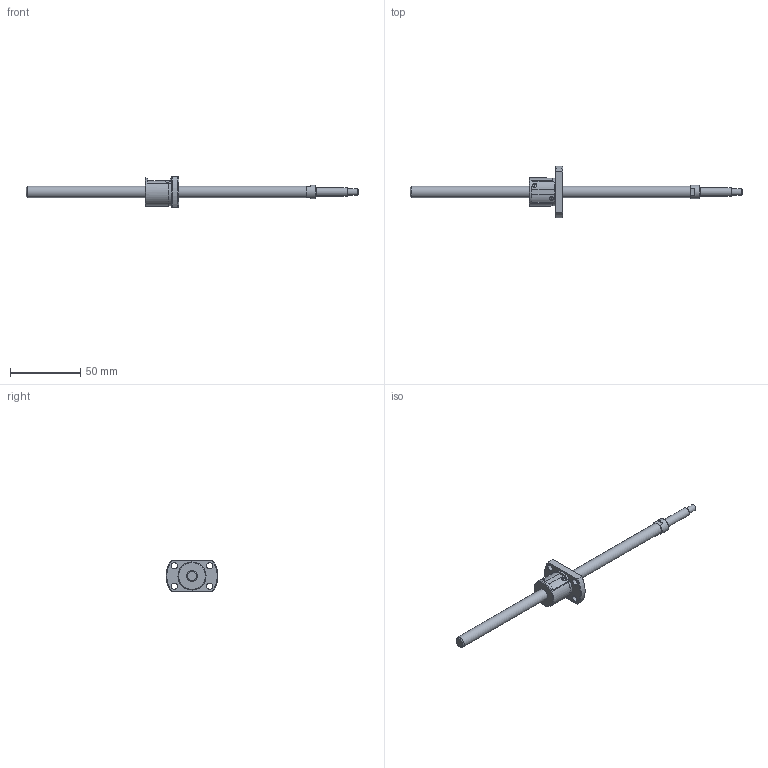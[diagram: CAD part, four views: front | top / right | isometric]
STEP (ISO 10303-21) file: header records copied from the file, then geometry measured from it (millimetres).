
FILE_DESCRIPTION(/* description */ ('STEP AP214'),/* implementation_level */ '2;1');
FILE_NAME(/* name */ 'SRT0802-196R237C7A0X(85Processing)',/* time_stamp */ '2026-08-04T19:57:06+02:00',/* author */ ('License CC BY-ND 4.0'),/* organization */ ('CADENAS'),/* preprocessor_version */ 'ST-DEVELOPER v20',/* originating_system */ 'PARTsolutions',/* authorisation */ ' ');
FILE_SCHEMA (('AUTOMOTIVE_DESIGN {1 0 10303 214 3 1 1}'));
Length unit declared in the file: millimetre
Products named in the file (3): SRT0802-196R237C7A0X(85Processing); SRT0802-196R270ACt7Processing33Shaft; SRT0802Nut
Assembly tree (2 placements, depth 2):
  SRT0802-196R237C7A0X(85Processing)
    SRT0802-196R270ACt7Processing33Shaft
    SRT0802Nut
Bounding box: 237 x 37 x 22 mm (x, y, z)
Volume: 19128.4 mm3; surface area: 9807.6 mm2
Topology: 2 solids, 2 shells, 62 faces, 154 edges, 101 vertices
Faces by surface type: plane 31, cylinder 17, cone 13, torus 1
Full cylindrical faces by diameter (mm): 1 x2, 4.5 x5, 6 x1, 8 x2, 9.5 x1, 19.7 x1, 20 x1
Entity records: 1751 total; most frequent: CARTESIAN_POINT 339, DIRECTION 288, ORIENTED_EDGE 236, AXIS2_PLACEMENT_3D 123, EDGE_CURVE 118, EDGE_LOOP 100, FACE_BOUND 100, VERTEX_POINT 88
